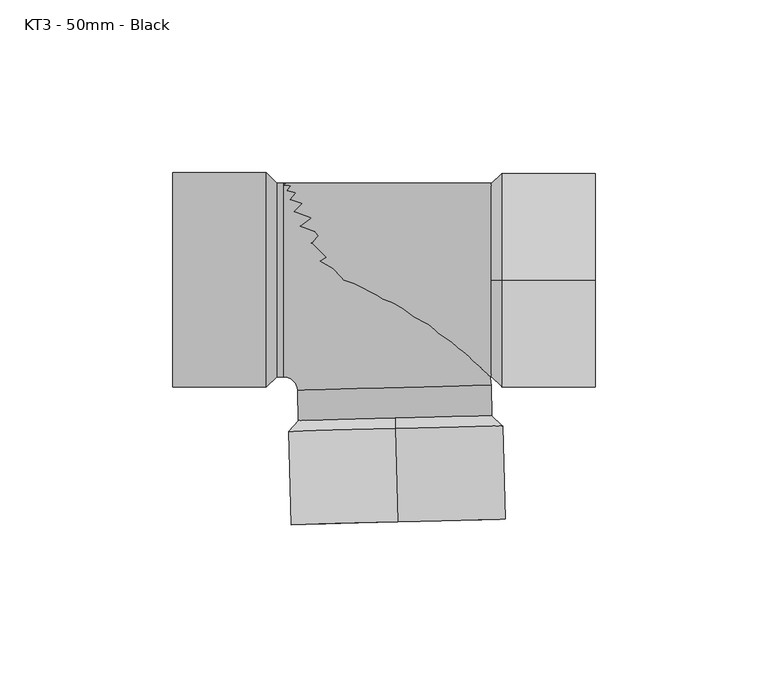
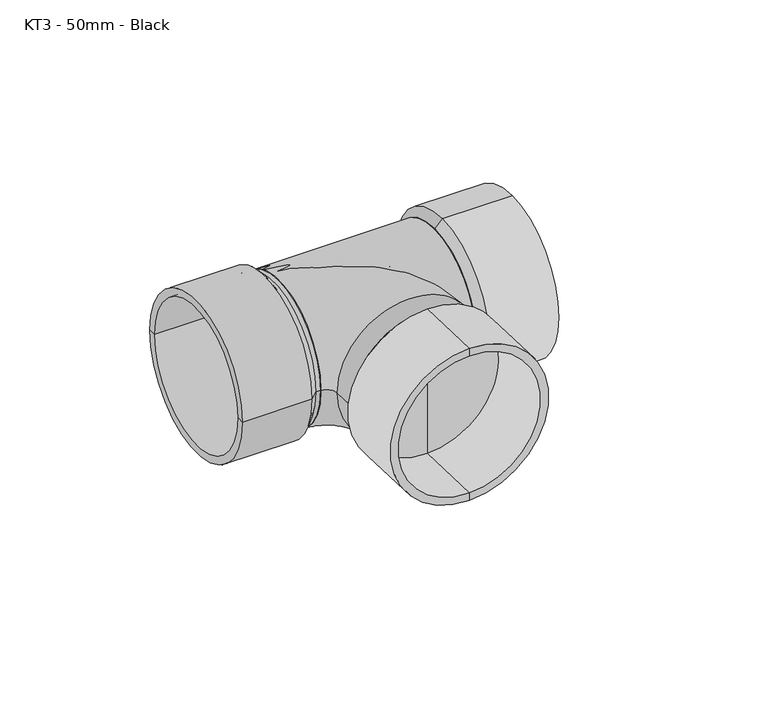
"""IFC4 building model written with IfcOpenShell, lengths in millimetres: pipe fitting geometry, MarleyPlumbingAndDrainage_PipeFitting_EqualBranchTee88.5 : KT3 - 50mm - Black."""

from ifc_helpers import new_model, si_unit, point, frame, origin, place, context, project, spatial, polyline, circle_curve, ellipse_curve, trimmed, source, transform, mapped, element, save
from ifc_brep_helpers import plane_surface, cylinder_surface, revolved_surface, advanced_brep


def kt3_50mm_black_4773b306(model_context):
    return source(origin(), model_context, "Body", "AdvancedBrep", [
        advanced_brep(
        [(58.8269801, 0.0, 28.0), (58.8269801, 0.0, -28.0), (58.8269801, 0.0, -31.0), (58.8269801, 0.0, 31.0), (31.8269801, 0.0, 28.0), (31.8269801, 0.0, -28.0), (31.8269801, 0.0, 0.0), (28.8269801, 0.0, 28.0), (28.8269801, 0.0, -28.0), (28.8269801, 0.0, 0.0), (31.8269801, 0.0, 31.0), (31.8269801, 0.0, -31.0)],
        [
            (0, 1, circle_curve(frame((58.8269801, 0.0, 0.0), z_axis=(-1.0, 0.0, 0.0), x_axis=(0.0, 0.0, -1.0)), 28.0)),
            (1, 2),
            (2, 3, circle_curve(frame((58.8269801, 0.0, 0.0), z_axis=(1.0, 0.0, 0.0), x_axis=(0.0, 0.0, -1.0)), 31.0)),
            (3, 0),
            (1, 0, circle_curve(frame((58.8269801, 0.0, 0.0), z_axis=(-1.0, 0.0, 0.0), x_axis=(0.0, 0.0, -1.0)), 28.0)),
            (3, 2, circle_curve(frame((58.8269801, 0.0, 0.0), z_axis=(1.0, 0.0, 0.0), x_axis=(0.0, 0.0, -1.0)), 31.0)),
            (4, 5, circle_curve(frame((31.8269801, 0.0, 0.0), z_axis=(-1.0, 0.0, 0.0), x_axis=(0.0, 0.0, -1.0)), 28.0)),
            (5, 1),
            (0, 4),
            (5, 4, circle_curve(frame((31.8269801, 0.0, 0.0), z_axis=(-1.0, 0.0, 0.0), x_axis=(0.0, 0.0, -1.0)), 28.0)),
            (6, 5),
            (4, 6),
            (7, 8, circle_curve(frame((28.8269801, 0.0, 0.0), z_axis=(-1.0, 0.0, 0.0), x_axis=(0.0, 0.0, -1.0)), 28.0)),
            (8, 9),
            (9, 7),
            (8, 7, circle_curve(frame((28.8269801, 0.0, 0.0), z_axis=(-1.0, 0.0, 0.0), x_axis=(0.0, 0.0, -1.0)), 28.0)),
            (10, 11, circle_curve(frame((31.8269801, 0.0, 0.0), z_axis=(-1.0, 0.0, 0.0), x_axis=(0.0, 0.0, -1.0)), 31.0)),
            (11, 8),
            (7, 10),
            (11, 10, circle_curve(frame((31.8269801, 0.0, 0.0), z_axis=(-1.0, 0.0, 0.0), x_axis=(0.0, 0.0, -1.0)), 31.0)),
            (2, 11),
            (10, 3),
        ],
        [
            plane_surface(frame((58.8269801, 0.0, 0.0), z_axis=(1.0, 0.0, 0.0), x_axis=(0.0, 0.0, -1.0))),
            revolved_surface(polyline([(58.8269801, 0.0, -28.0), (31.8269801, 0.0, -28.0)]), (96.8100201, 0.0, 0.0), (1.0, 0.0, 0.0)),
            plane_surface(frame((31.8269801, 0.0, 0.0), z_axis=(1.0, 0.0, 0.0), x_axis=(0.0, 0.0, -1.0))),
            plane_surface(frame((28.8269801, 0.0, 0.0), z_axis=(-1.0, 0.0, 0.0), x_axis=(0.0, 0.0, -1.0))),
            revolved_surface(polyline([(28.8269801, 0.0, -28.0), (31.8269801, 0.0, -31.0)]), (96.8100201, 0.0, 0.0), (1.0, 0.0, 0.0)),
            cylinder_surface(frame((96.8100201, 0.0, 0.0), z_axis=(1.0, 0.0, 0.0), x_axis=(0.0, 0.0, -1.0)), 31.0),
        ],
        [
            (0, [[1, 2, 3, 4]]),
            (0, [[5, -4, 6, -2]]),
            (1, [[7, 8, -1, 9]]),
            (1, [[10, -9, -5, -8]]),
            (2, [[11, -7, 12]]),
            (2, [[-12, -10, -11]]),
            (3, [[13, 14, 15]]),
            (3, [[16, -15, -14]]),
            (4, [[17, 18, -13, 19]]),
            (4, [[20, -19, -16, -18]]),
            (5, [[-3, 21, -17, 22]]),
            (5, [[-6, -22, -20, -21]]),
        ],
    ),
        advanced_brep(
        [(-63.1730199, -28.0, 0.0), (-63.1730199, 28.0, 0.0), (-63.1730199, 31.0, 0.0), (-63.1730199, -31.0, 0.0), (-36.1730199, -28.0, 0.0), (-36.1730199, 28.0, 0.0), (-36.1730199, 0.0, 0.0), (-33.1730199, -28.0, 0.0), (-33.1730199, 28.0, 0.0), (-33.1730199, 0.0, 0.0), (-36.1730199, -31.0, 0.0), (-36.1730199, 31.0, 0.0)],
        [
            (0, 1, circle_curve(frame((-63.1730199, 0.0, 0.0), z_axis=(1.0, 0.0, 0.0), x_axis=(0.0, 1.0, 0.0)), 28.0)),
            (1, 2),
            (2, 3, circle_curve(frame((-63.1730199, 0.0, 0.0), z_axis=(-1.0, 0.0, 0.0), x_axis=(0.0, 1.0, 0.0)), 31.0)),
            (3, 0),
            (1, 0, circle_curve(frame((-63.1730199, 0.0, 0.0), z_axis=(1.0, 0.0, 0.0), x_axis=(0.0, 1.0, 0.0)), 28.0)),
            (3, 2, circle_curve(frame((-63.1730199, 0.0, 0.0), z_axis=(-1.0, 0.0, 0.0), x_axis=(0.0, 1.0, 0.0)), 31.0)),
            (4, 5, circle_curve(frame((-36.1730199, 0.0, 0.0), z_axis=(1.0, 0.0, 0.0), x_axis=(0.0, 1.0, 0.0)), 28.0)),
            (5, 1),
            (0, 4),
            (5, 4, circle_curve(frame((-36.1730199, 0.0, 0.0), z_axis=(1.0, 0.0, 0.0), x_axis=(0.0, 1.0, 0.0)), 28.0)),
            (6, 5),
            (4, 6),
            (7, 8, circle_curve(frame((-33.1730199, 0.0, 0.0), z_axis=(1.0, 0.0, 0.0), x_axis=(0.0, 1.0, 0.0)), 28.0)),
            (8, 9),
            (9, 7),
            (8, 7, circle_curve(frame((-33.1730199, 0.0, 0.0), z_axis=(1.0, 0.0, 0.0), x_axis=(0.0, 1.0, 0.0)), 28.0)),
            (10, 11, circle_curve(frame((-36.1730199, 0.0, 0.0), z_axis=(1.0, 0.0, 0.0), x_axis=(0.0, 1.0, 0.0)), 31.0)),
            (11, 8),
            (7, 10),
            (11, 10, circle_curve(frame((-36.1730199, 0.0, 0.0), z_axis=(1.0, 0.0, 0.0), x_axis=(0.0, 1.0, 0.0)), 31.0)),
            (2, 11),
            (10, 3),
        ],
        [
            plane_surface(frame((-63.1730199, 0.0, 0.0), z_axis=(-1.0, 0.0, 0.0), x_axis=(0.0, 1.0, 0.0))),
            revolved_surface(polyline([(-63.1730199, 28.0, 0.0), (-36.1730199, 28.0, 0.0)]), (-101.1560598, 0.0, 0.0), (-1.0, 0.0, 0.0)),
            plane_surface(frame((-36.1730199, 0.0, 0.0), z_axis=(-1.0, 0.0, 0.0), x_axis=(0.0, 1.0, 0.0))),
            plane_surface(frame((-33.1730199, 0.0, 0.0), z_axis=(1.0, 0.0, 0.0), x_axis=(0.0, 1.0, 0.0))),
            revolved_surface(polyline([(-33.1730199, 28.0, 0.0), (-36.1730199, 31.0, 0.0)]), (-101.1560598, 0.0, 0.0), (-1.0, 0.0, 0.0)),
            cylinder_surface(frame((-101.1560598, 0.0, 0.0), z_axis=(-1.0, 0.0, 0.0), x_axis=(0.0, 1.0, 0.0)), 31.0),
        ],
        [
            (0, [[1, 2, 3, 4]]),
            (0, [[5, -4, 6, -2]]),
            (1, [[7, 8, -1, 9]]),
            (1, [[10, -9, -5, -8]]),
            (2, [[11, -7, 12]]),
            (2, [[-12, -10, -11]]),
            (3, [[13, 14, 15]]),
            (3, [[16, -15, -14]]),
            (4, [[17, 18, -13, 19]]),
            (4, [[20, -19, -16, -18]]),
            (5, [[-3, 21, -17, 22]]),
            (5, [[-6, -22, -20, -21]]),
        ],
    ),
        advanced_brep(
        [(1.8316801, -69.9490419, -28.0), (1.8316801, -69.9490419, 28.0), (1.8316801, -69.9490419, 31.0), (1.8316801, -69.9490419, -31.0), (1.1249025, -42.9582941, -28.0), (1.1249025, -42.9582941, 28.0), (1.1249025, -42.9582941, 0.0), (1.0463717, -39.9593221, -28.0), (1.0463717, -39.9593221, 28.0), (1.0463717, -39.9593221, 0.0), (1.1249025, -42.9582941, -31.0), (1.1249025, -42.9582941, 31.0)],
        [
            (0, 1, circle_curve(frame((1.8316801, -69.9490419, 0.0), z_axis=(-0.02617694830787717, 0.9996573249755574, 0.0), x_axis=(0.0, 0.0, 1.0)), 28.0)),
            (1, 2),
            (2, 3, circle_curve(frame((1.8316801, -69.9490419, 0.0), z_axis=(0.02617694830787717, -0.9996573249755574, 0.0), x_axis=(0.0, 0.0, 1.0)), 31.0)),
            (3, 0),
            (1, 0, circle_curve(frame((1.8316801, -69.9490419, 0.0), z_axis=(-0.02617694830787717, 0.9996573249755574, 0.0), x_axis=(0.0, 0.0, 1.0)), 28.0)),
            (3, 2, circle_curve(frame((1.8316801, -69.9490419, 0.0), z_axis=(0.02617694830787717, -0.9996573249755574, 0.0), x_axis=(0.0, 0.0, 1.0)), 31.0)),
            (4, 5, circle_curve(frame((1.1249025, -42.9582941, 0.0), z_axis=(-0.02617694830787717, 0.9996573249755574, 0.0), x_axis=(0.0, 0.0, 1.0)), 28.0)),
            (5, 1),
            (0, 4),
            (5, 4, circle_curve(frame((1.1249025, -42.9582941, 0.0), z_axis=(-0.02617694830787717, 0.9996573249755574, 0.0), x_axis=(0.0, 0.0, 1.0)), 28.0)),
            (6, 5),
            (4, 6),
            (7, 8, circle_curve(frame((1.0463717, -39.9593221, 0.0), z_axis=(-0.02617694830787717, 0.9996573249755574, 0.0), x_axis=(0.0, 0.0, 1.0)), 28.0)),
            (8, 9),
            (9, 7),
            (8, 7, circle_curve(frame((1.0463717, -39.9593221, 0.0), z_axis=(-0.02617694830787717, 0.9996573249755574, 0.0), x_axis=(0.0, 0.0, 1.0)), 28.0)),
            (10, 11, circle_curve(frame((1.1249025, -42.9582941, 0.0), z_axis=(-0.02617694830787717, 0.9996573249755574, 0.0), x_axis=(0.0, 0.0, 1.0)), 31.0)),
            (11, 8),
            (7, 10),
            (11, 10, circle_curve(frame((1.1249025, -42.9582941, 0.0), z_axis=(-0.02617694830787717, 0.9996573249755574, 0.0), x_axis=(0.0, 0.0, 1.0)), 31.0)),
            (2, 11),
            (10, 3),
        ],
        [
            plane_surface(frame((1.8316801, -69.9490419, 0.0), z_axis=(0.026176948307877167, -0.9996573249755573, 0.0), x_axis=(0.0, 0.0, 1.0))),
            revolved_surface(polyline([(1.8316801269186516, -69.94904189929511, 28.0), (1.1249025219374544, -42.95829409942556, 28.0)]), (2.8259602, -107.919066, 0.0), (0.026176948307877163, -0.9996573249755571, 0.0)),
            plane_surface(frame((1.1249025, -42.9582941, 0.0), z_axis=(0.026176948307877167, -0.9996573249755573, 0.0), x_axis=(0.0, 0.0, 1.0))),
            plane_surface(frame((1.0463717, -39.9593221, 0.0), z_axis=(-0.026176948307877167, 0.9996573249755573, 0.0), x_axis=(0.0, 0.0, 1.0))),
            revolved_surface(polyline([(1.0463717, -39.9593221, 28.0), (1.1249025, -42.9582941, 31.0)]), (2.8259602, -107.919066, 0.0), (0.026176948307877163, -0.9996573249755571, 0.0)),
            cylinder_surface(frame((2.8259602, -107.919066, 0.0), z_axis=(0.026176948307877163, -0.9996573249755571, 0.0), x_axis=(0.0, 0.0, 1.0)), 31.0),
        ],
        [
            (0, [[1, 2, 3, 4]]),
            (0, [[5, -4, 6, -2]]),
            (1, [[7, 8, -1, 9]]),
            (1, [[10, -9, -5, -8]]),
            (2, [[11, -7, 12]]),
            (2, [[-12, -10, -11]]),
            (3, [[13, 14, 15]]),
            (3, [[16, -15, -14]]),
            (4, [[17, 18, -13, 19]]),
            (4, [[20, -19, -16, -18]]),
            (5, [[-3, 21, -17, 22]]),
            (5, [[-6, -22, -20, -21]]),
        ],
    ),
        advanced_brep(
        [(-26.9440334, -40.6922767, 0.0), (29.0367768, -39.2263676, 0.0), (28.8064196, -30.4293831, 0.0), (-27.1743906, -31.8952922, 0.0), (-31.1730199, -28.0, 0.0), (-31.1730199, 28.0, 0.0)],
        [
            (0, 1, circle_curve(frame((1.0463717, -39.9593221, 0.0), z_axis=(0.026176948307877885, -0.9996573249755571, 0.0), x_axis=(0.9996573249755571, 0.026176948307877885, 0.0)), 28.0)),
            (1, 0, circle_curve(frame((1.0463717, -39.9593221, 0.0), z_axis=(0.026176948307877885, -0.9996573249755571, 0.0), x_axis=(0.9996573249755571, 0.026176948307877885, 0.0)), 28.0)),
            (2, 3, circle_curve(frame((0.8160145, -31.1623377, 0.0), z_axis=(0.026176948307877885, -0.9996573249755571, 0.0), x_axis=(0.9996573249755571, 0.026176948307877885, 0.0)), 28.0)),
            (3, 0),
            (1, 2),
            (3, 2, circle_curve(frame((0.8160145, -31.1623377, 0.0), z_axis=(0.026176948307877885, -0.9996573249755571, 0.0), x_axis=(0.9996573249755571, 0.026176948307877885, 0.0)), 28.0)),
            (4, 5, circle_curve(frame((-31.1730199, 0.0, 0.0), z_axis=(-1.0, 0.0, 0.0), x_axis=(0.0, 1.0, 0.0)), 28.0)),
            (5, 4, circle_curve(frame((-31.1730199, 0.0, 0.0), z_axis=(-1.0, 0.0, 0.0), x_axis=(0.0, 1.0, 0.0)), 28.0)),
            (2, 5, circle_curve(frame((-31.1730199, -32.0, 0.0), z_axis=(0.0, 0.0, 1.0), x_axis=(0.0, 1.0, 0.0)), 60.0)),
            (4, 3, circle_curve(frame((-31.1730199, -32.0, 0.0), z_axis=(0.0, 0.0, -1.0), x_axis=(0.0, 1.0, 0.0)), 4.0)),
        ],
        [
            plane_surface(frame((1.0463717, -39.9593221, 0.0), z_axis=(0.026176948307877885, -0.9996573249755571, 0.0), x_axis=(0.0, 0.0, 1.0))),
            cylinder_surface(frame((0.8160145, -31.1623377, 0.0), z_axis=(-0.026176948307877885, 0.9996573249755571, 0.0), x_axis=(0.9996573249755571, 0.026176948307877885, 0.0)), 28.0),
            plane_surface(frame((-31.1730199, 0.0, 0.0), z_axis=(-1.0, 0.0, 0.0), x_axis=(0.0, 0.0, 1.0))),
            revolved_surface(trimmed(ellipse_curve(frame((-31.1730199, 0.0, 0.0), z_axis=(-1.0, 0.0, 0.0), x_axis=(0.0, 1.0, 0.0)), 28.0, 28.0), [point((-31.1730199, -28.0, 0.0))], [point((-31.1730199, 28.0, 0.0))], True, "CARTESIAN"), (-31.1730199, -32.0, 0.0), (0.0, 0.0, -1.0)),
            revolved_surface(trimmed(ellipse_curve(frame((-31.1730199, 0.0, 0.0), z_axis=(-1.0, 0.0, 0.0), x_axis=(0.0, 1.0, 0.0)), 28.0, 28.0), [point((-31.1730199, 28.0, 0.0))], [point((-31.1730199, -28.0, 0.0))], True, "CARTESIAN"), (-31.1730199, -32.0, 0.0), (0.0, 0.0, -1.0)),
        ],
        [
            (0, [[1, 2]]),
            (1, [[3, 4, -2, 5]]),
            (1, [[6, -5, -1, -4]]),
            (2, [[7, 8]]),
            (3, [[9, -7, 10, -3]]),
            (4, [[-10, -8, -9, -6]]),
        ],
    ),
        advanced_brep(
        [(-33.1730199, 0.0, 0.0), (-33.1730199, 28.0, 0.0), (-33.1730199, -28.0, 0.0), (28.8269801, -28.0, 0.0), (28.8269801, 28.0, 0.0), (28.8269801, 0.0, 0.0)],
        [
            (0, 1),
            (1, 2, circle_curve(frame((-33.1730199, 0.0, 0.0), z_axis=(-1.0, 0.0, 0.0), x_axis=(0.0, 1.0, 0.0)), 28.0)),
            (2, 0),
            (2, 1, circle_curve(frame((-33.1730199, 0.0, 0.0), z_axis=(-1.0, 0.0, 0.0), x_axis=(0.0, 1.0, 0.0)), 28.0)),
            (3, 4, circle_curve(frame((28.8269801, 0.0, 0.0), z_axis=(1.0, 0.0, 0.0), x_axis=(0.0, 1.0, 0.0)), 28.0)),
            (4, 5),
            (5, 3),
            (4, 3, circle_curve(frame((28.8269801, 0.0, 0.0), z_axis=(1.0, 0.0, 0.0), x_axis=(0.0, 1.0, 0.0)), 28.0)),
            (1, 4),
            (3, 2),
        ],
        [
            plane_surface(frame((-33.1730199, 0.0, 0.0), z_axis=(-1.0, 0.0, 0.0), x_axis=(0.0, 1.0, 0.0))),
            plane_surface(frame((28.8269801, 0.0, 0.0), z_axis=(1.0, 0.0, 0.0), x_axis=(0.0, 1.0, 0.0))),
            cylinder_surface(frame((2013.8269801, 0.0, 0.0), z_axis=(-1.0, 0.0, 0.0), x_axis=(0.0, 1.0, 0.0)), 28.0),
        ],
        [
            (0, [[1, 2, 3]]),
            (0, [[-3, 4, -1]]),
            (1, [[5, 6, 7]]),
            (1, [[8, -7, -6]]),
            (2, [[-2, 9, -5, 10]]),
            (2, [[-4, -10, -8, -9]]),
        ],
    ),
    ])


if __name__ == "__main__":
    model = new_model("IFC4")
    model_context = context("Model", 3, world=origin())
    ifc_project = project(units=[si_unit("LENGTHUNIT", "METRE", prefix="MILLI")], contexts=[model_context])
    site = spatial("IfcSite", under=ifc_project)
    building = spatial("IfcBuilding", under=site)
    placement = place(None, origin())
    kt3_50mm_black_shape = kt3_50mm_black_4773b306(model_context)
    element("IfcPipeFitting", 1, ObjectType="MarleyPlumbingAndDrainage_PipeFitting_EqualBranchTee88.5 : KT3 - 50mm - Black", at=placement, inside=building, context=model_context, shape_type="MappedRepresentation", body=[
        mapped(kt3_50mm_black_shape, transform((0.0, 0.0, 0.0), x_axis=(1.0, 0.0, 0.0), y_axis=(0.0, 1.0, 0.0), z_axis=(0.0, 0.0, 1.0))),
    ])
    save(model, "model.ifc")
